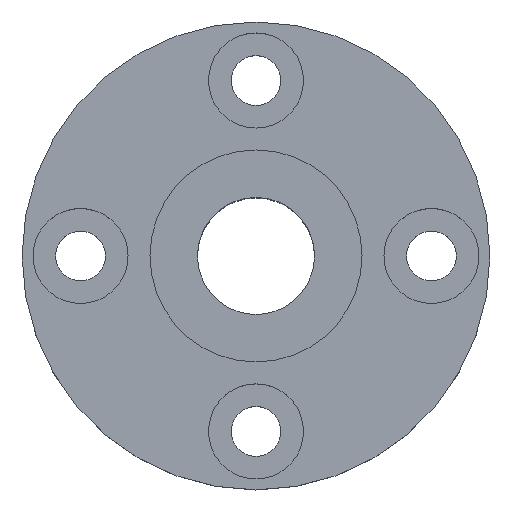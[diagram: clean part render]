
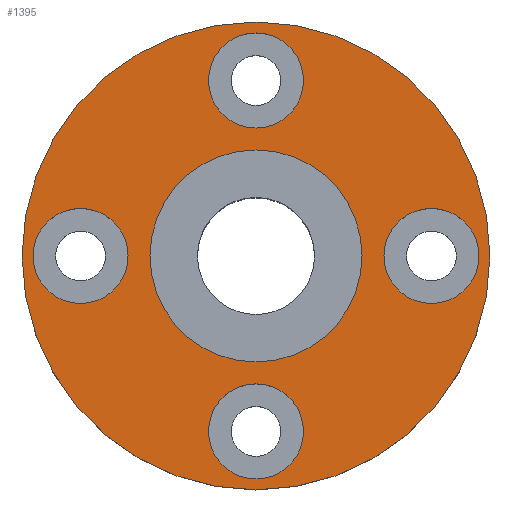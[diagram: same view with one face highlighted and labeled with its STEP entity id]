
A CAD part, top view. The second image highlights one B-rep face of the part: STEP entity #1395.
In plain terms, the highlighted planar face has unit normal (0, 0, 1).
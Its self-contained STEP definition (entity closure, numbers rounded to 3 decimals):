
#133=CARTESIAN_POINT('',(-7.25,0.,12.5));
#134=VERTEX_POINT('',#133);
#143=CARTESIAN_POINT('',(7.25,0.,12.5));
#144=VERTEX_POINT('',#143);
#145=CARTESIAN_POINT('',(0.0,0.0,12.5));
#146=DIRECTION('',(0.0,0.0,-1.0));
#147=DIRECTION('',(-1.0,0.0,0.0));
#148=AXIS2_PLACEMENT_3D('',#145,#146,#147);
#149=CIRCLE('',#148,7.25);
#150=EDGE_CURVE('',#144,#134,#149,.T.);
#217=CARTESIAN_POINT('',(-16.0,0.,12.5));
#218=VERTEX_POINT('',#217);
#227=CARTESIAN_POINT('',(16.0,0.,12.5));
#228=VERTEX_POINT('',#227);
#229=CARTESIAN_POINT('',(0.0,0.0,12.5));
#230=DIRECTION('',(0.0,0.0,-1.0));
#231=DIRECTION('',(-1.0,0.0,0.0));
#232=AXIS2_PLACEMENT_3D('',#229,#230,#231);
#233=CIRCLE('',#232,16.0);
#234=EDGE_CURVE('',#218,#228,#233,.T.);
#345=CARTESIAN_POINT('',(15.25,0.0,12.5));
#346=VERTEX_POINT('',#345);
#362=CARTESIAN_POINT('',(8.75,0.,12.5));
#363=VERTEX_POINT('',#362);
#370=CARTESIAN_POINT('',(12.,0.0,12.5));
#371=DIRECTION('',(0.0,0.0,-1.0));
#372=DIRECTION('',(1.0,0.0,0.0));
#373=AXIS2_PLACEMENT_3D('',#370,#371,#372);
#374=CIRCLE('',#373,3.25);
#375=EDGE_CURVE('',#346,#363,#374,.T.);
#471=CARTESIAN_POINT('',(0.,15.25,12.5));
#472=VERTEX_POINT('',#471);
#488=CARTESIAN_POINT('',(0.,8.75,12.5));
#489=VERTEX_POINT('',#488);
#496=CARTESIAN_POINT('',(0.,12.,12.5));
#497=DIRECTION('',(0.0,0.0,-1.0));
#498=DIRECTION('',(0.0,1.0,0.0));
#499=AXIS2_PLACEMENT_3D('',#496,#497,#498);
#500=CIRCLE('',#499,3.25);
#501=EDGE_CURVE('',#472,#489,#500,.T.);
#597=CARTESIAN_POINT('',(-15.25,0.,12.5));
#598=VERTEX_POINT('',#597);
#614=CARTESIAN_POINT('',(-8.75,0.,12.5));
#615=VERTEX_POINT('',#614);
#622=CARTESIAN_POINT('',(-12.,0.,12.5));
#623=DIRECTION('',(0.0,0.0,-1.0));
#624=DIRECTION('',(-1.0,0.0,0.0));
#625=AXIS2_PLACEMENT_3D('',#622,#623,#624);
#626=CIRCLE('',#625,3.25);
#627=EDGE_CURVE('',#598,#615,#626,.T.);
#723=CARTESIAN_POINT('',(0.,-15.25,12.5));
#724=VERTEX_POINT('',#723);
#740=CARTESIAN_POINT('',(0.,-8.75,12.5));
#741=VERTEX_POINT('',#740);
#748=CARTESIAN_POINT('',(0.,-12.,12.5));
#749=DIRECTION('',(0.0,0.0,-1.0));
#750=DIRECTION('',(0.0,-1.0,0.0));
#751=AXIS2_PLACEMENT_3D('',#748,#749,#750);
#752=CIRCLE('',#751,3.25);
#753=EDGE_CURVE('',#724,#741,#752,.T.);
#811=CARTESIAN_POINT('',(0.,-12.,12.5));
#812=DIRECTION('',(0.0,0.0,-1.0));
#813=DIRECTION('',(0.0,-1.0,0.0));
#814=AXIS2_PLACEMENT_3D('',#811,#812,#813);
#815=CIRCLE('',#814,3.25);
#816=EDGE_CURVE('',#741,#724,#815,.T.);
#915=CARTESIAN_POINT('',(-12.,0.,12.5));
#916=DIRECTION('',(0.0,0.0,-1.0));
#917=DIRECTION('',(-1.0,0.0,0.0));
#918=AXIS2_PLACEMENT_3D('',#915,#916,#917);
#919=CIRCLE('',#918,3.25);
#920=EDGE_CURVE('',#615,#598,#919,.T.);
#1019=CARTESIAN_POINT('',(0.,12.,12.5));
#1020=DIRECTION('',(0.0,0.0,-1.0));
#1021=DIRECTION('',(0.0,1.0,0.0));
#1022=AXIS2_PLACEMENT_3D('',#1019,#1020,#1021);
#1023=CIRCLE('',#1022,3.25);
#1024=EDGE_CURVE('',#489,#472,#1023,.T.);
#1123=CARTESIAN_POINT('',(12.,0.0,12.5));
#1124=DIRECTION('',(0.0,0.0,-1.0));
#1125=DIRECTION('',(1.0,0.0,0.0));
#1126=AXIS2_PLACEMENT_3D('',#1123,#1124,#1125);
#1127=CIRCLE('',#1126,3.25);
#1128=EDGE_CURVE('',#363,#346,#1127,.T.);
#1188=CARTESIAN_POINT('',(0.0,0.0,12.5));
#1189=DIRECTION('',(0.0,0.0,-1.0));
#1190=DIRECTION('',(-1.0,0.0,0.0));
#1191=AXIS2_PLACEMENT_3D('',#1188,#1189,#1190);
#1192=CIRCLE('',#1191,16.0);
#1193=EDGE_CURVE('',#228,#218,#1192,.T.);
#1306=CARTESIAN_POINT('',(0.0,0.0,12.5));
#1307=DIRECTION('',(0.0,0.0,-1.0));
#1308=DIRECTION('',(-1.0,0.0,0.0));
#1309=AXIS2_PLACEMENT_3D('',#1306,#1307,#1308);
#1310=CIRCLE('',#1309,7.25);
#1311=EDGE_CURVE('',#134,#144,#1310,.T.);
#1366=CARTESIAN_POINT('',(0.0,0.0,12.5));
#1367=DIRECTION('',(0.0,0.0,-1.0));
#1368=DIRECTION('',(-1.0,0.0,0.0));
#1369=AXIS2_PLACEMENT_3D('',#1366,#1367,#1368);
#1370=PLANE('',#1369);
#1371=ORIENTED_EDGE('',*,*,#1193,.F.);
#1372=ORIENTED_EDGE('',*,*,#234,.F.);
#1373=EDGE_LOOP('',(#1371,#1372));
#1374=FACE_OUTER_BOUND('',#1373,.T.);
#1375=ORIENTED_EDGE('',*,*,#753,.T.);
#1376=ORIENTED_EDGE('',*,*,#816,.T.);
#1377=EDGE_LOOP('',(#1375,#1376));
#1378=FACE_BOUND('',#1377,.T.);
#1379=ORIENTED_EDGE('',*,*,#627,.T.);
#1380=ORIENTED_EDGE('',*,*,#920,.T.);
#1381=EDGE_LOOP('',(#1379,#1380));
#1382=FACE_BOUND('',#1381,.T.);
#1383=ORIENTED_EDGE('',*,*,#501,.T.);
#1384=ORIENTED_EDGE('',*,*,#1024,.T.);
#1385=EDGE_LOOP('',(#1383,#1384));
#1386=FACE_BOUND('',#1385,.T.);
#1387=ORIENTED_EDGE('',*,*,#375,.T.);
#1388=ORIENTED_EDGE('',*,*,#1128,.T.);
#1389=EDGE_LOOP('',(#1387,#1388));
#1390=FACE_BOUND('',#1389,.T.);
#1391=ORIENTED_EDGE('',*,*,#150,.T.);
#1392=ORIENTED_EDGE('',*,*,#1311,.T.);
#1393=EDGE_LOOP('',(#1391,#1392));
#1394=FACE_BOUND('',#1393,.T.);
#1395=ADVANCED_FACE('',(#1374,#1378,#1382,#1386,#1390,#1394),#1370,.F.);
